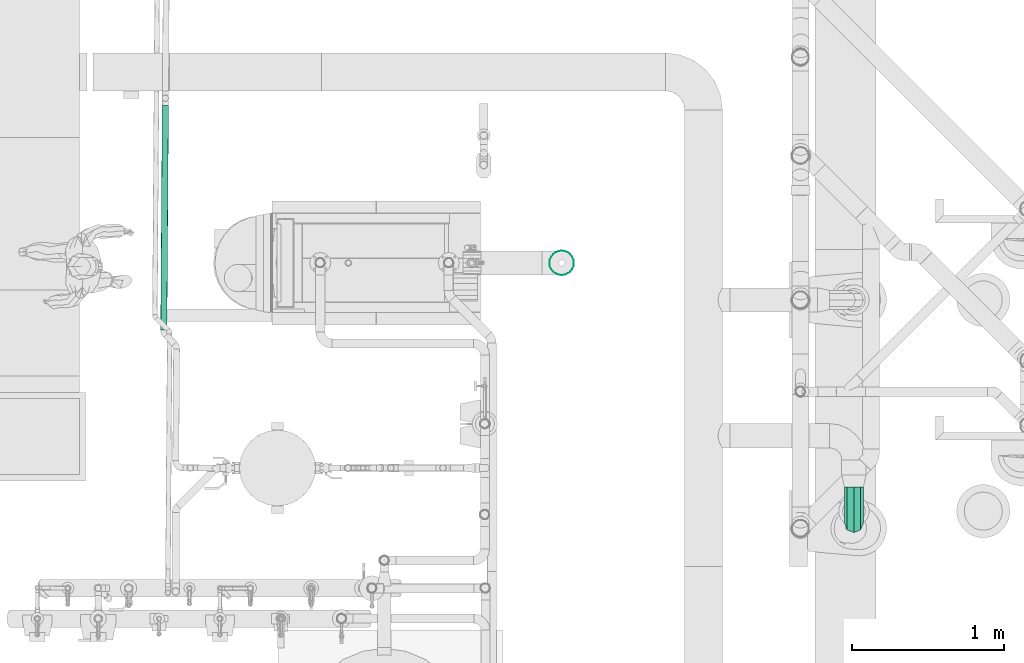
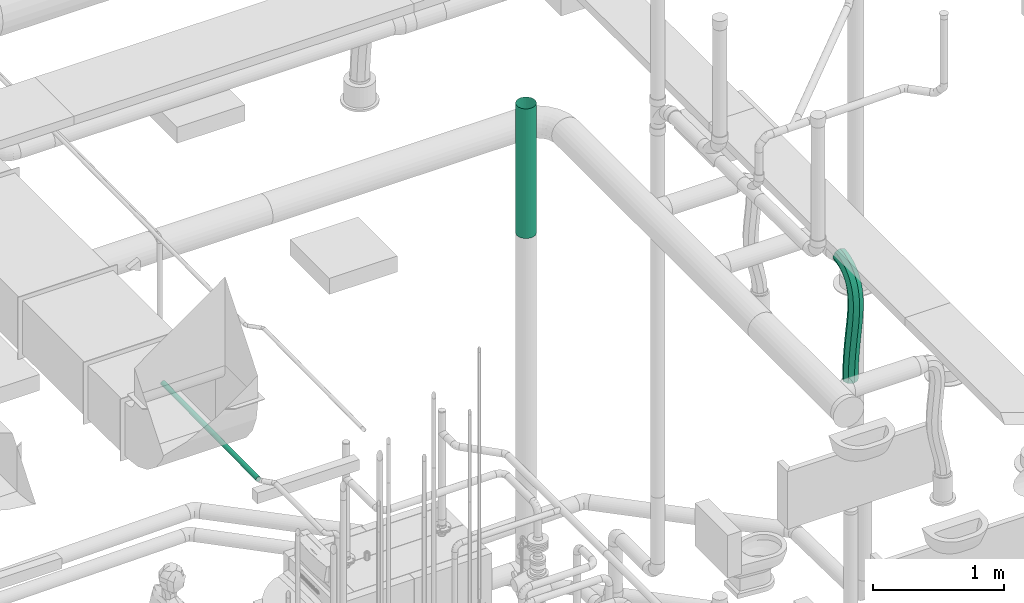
# One storey, part 217 of 374: 3 flow segments.
"""IFC2X3 building model written with IfcOpenShell, lengths in metres."""

from ifc_helpers import new_model, si_unit, direction, origin, place, context, subcontext, project, spatial, open_shell, surface_model, source, transform, mapped, element, save


model = new_model("IFC2X3")

# Units and contexts
model_context = context("Model", 3, precision=1e-05, world=origin(), true_north=direction((-0.4480736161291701, 0.8939966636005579)))
body_context = subcontext(model_context, "Body", "Model", "MODEL_VIEW")
ifc_project = project(units=[si_unit("LENGTHUNIT", "METRE"), si_unit("AREAUNIT", "SQUARE_METRE"), si_unit("VOLUMEUNIT", "CUBIC_METRE"), si_unit("PLANEANGLEUNIT", "RADIAN"), si_unit("THERMODYNAMICTEMPERATUREUNIT", "KELVIN"), si_unit("MASSUNIT", "GRAM", prefix="KILO"), si_unit("TIMEUNIT", "SECOND")], contexts=[model_context])

# Site, building, storey
site_placement = place(None, origin())
site = spatial("IfcSite", under=ifc_project, at=site_placement, Name="Site 1", CompositionType="ELEMENT")
building_placement = place(site_placement, origin())
building = spatial("IfcBuilding", under=site, at=building_placement, Name="Undefined", CompositionType="ELEMENT")
storey_placement = place(building_placement, origin())
storey = spatial("IfcBuildingStorey", under=building, at=storey_placement, Name="Rez de chauss\x8ee", CompositionType="ELEMENT", Elevation=0.0)

# Flow segments
shared_shape_1 = source(origin(), body_context, "Body", "SurfaceModel", [
    surface_model("IfcFaceBasedSurfaceModel", [(0.09296551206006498, 0.0, -1.776356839e-15), (0.06868137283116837, 0.04121296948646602, -3.552713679e-15), (0.0, 0.0, 0.0), (0.024921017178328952, -0.04083100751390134, 4.20823761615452e-07), (-0.06705793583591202, -0.04163735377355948, 0.0028957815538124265), (-0.04155639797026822, -0.08210832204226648, 0.0028719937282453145), (-0.1337249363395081, -0.08427158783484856, 0.008341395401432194), (-0.10773863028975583, -0.12443296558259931, 0.00827888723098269), (-0.20118001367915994, -0.12844506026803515, 0.015994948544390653), (-0.17482193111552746, -0.1683633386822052, 0.015891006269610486), (-0.2705745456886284, -0.17468142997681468, 0.025510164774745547), (-0.24396347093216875, -0.21443139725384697, 0.02537205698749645), (-0.3431505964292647, -0.22356279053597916, 0.0365490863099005), (-0.316448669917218, -0.2632517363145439, 0.036397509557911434), (-0.4217490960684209, -0.27647287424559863, 0.04844706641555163), (-0.3953363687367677, -0.3163549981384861, 0.04833615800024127), (-0.5036277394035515, -0.32986606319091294, 0.057269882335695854), (-0.47814370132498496, -0.37034805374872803, 0.05724717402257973), (-0.5855077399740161, -0.3795456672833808, 0.058401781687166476), (-0.561215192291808, -0.42075368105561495, 0.05840196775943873), (-0.62844431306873, -0.4033745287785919, 0.05439383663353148), (-0.6059795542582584, -0.4456065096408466, 0.05424325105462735), (-0.6692134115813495, -0.42408712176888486, 0.046626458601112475), (-0.6481122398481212, -0.4670150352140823, 0.04622263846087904), (-0.6974109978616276, -0.43709650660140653, 0.03852873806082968), (-0.6779420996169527, -0.48078227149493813, 0.03766605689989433), (-0.7246115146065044, -0.4484246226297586, 0.028188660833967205), (-0.7066454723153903, -0.49273471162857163, 0.02675143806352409), (-0.7513768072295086, -0.45820045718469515, 0.015175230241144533), (-0.735053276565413, -0.503108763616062, 0.012935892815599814), (-0.7774906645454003, -0.4661845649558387, -0.0007387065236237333), (-0.7628960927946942, -0.5116197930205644, -0.004035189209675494), (-0.8026772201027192, -0.47213380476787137, -0.019713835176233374), (-0.7898201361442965, -0.5179779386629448, -0.02432241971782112), (-0.825280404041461, -0.47566254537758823, -0.04049102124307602), (-0.8135197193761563, -0.5216918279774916, -0.046078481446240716), (-0.833923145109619, -0.4765030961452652, -0.04948891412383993), (-0.823196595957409, -0.5226452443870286, -0.056127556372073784), (-0.8410612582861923, -0.4769331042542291, -0.05746741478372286), (-0.8307996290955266, -0.5231033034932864, -0.0646256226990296), (-0.8479937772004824, -0.4771177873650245, -0.0656984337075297), (-0.8381723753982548, -0.5232997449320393, -0.073379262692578), (-0.8547117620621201, -0.47705910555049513, -0.07416680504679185), (-0.8453086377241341, -0.5232374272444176, -0.08237485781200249), (-0.8612053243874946, -0.4767582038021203, -0.08285787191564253), (-0.8522008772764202, -0.5229180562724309, -0.0915995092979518), (-0.8683495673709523, -0.47609964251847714, -0.09309794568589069), (-0.8600931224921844, -0.5221784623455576, -0.10293673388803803), (-0.8847226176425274, -0.4731254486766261, -0.11959917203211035), (-0.8771576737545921, -0.5190619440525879, -0.13059181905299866), (-0.8993770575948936, -0.4678062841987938, -0.14882050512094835), (-0.8927420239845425, -0.5134025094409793, -0.16167308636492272), (-0.9105366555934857, -0.46053554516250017, -0.17774048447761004), (-0.9045082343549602, -0.5057588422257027, -0.19211893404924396), (-0.9154757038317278, -0.4554361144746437, -0.19443580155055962), (-0.9099611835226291, -0.5001581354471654, -0.21049068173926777), (-0.918999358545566, -0.4500652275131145, -0.2099346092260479), (-0.9137588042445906, -0.4943683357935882, -0.22719727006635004), (0.052072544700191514, 0.07068647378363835, -0.03381845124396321), (-0.018146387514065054, 0.02855136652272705, -0.03381946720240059), (-0.08660582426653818, -0.013955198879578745, -0.030865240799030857), (-0.15444315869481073, -0.057336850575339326, -0.025326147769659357), (-0.22279578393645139, -0.10209721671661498, -0.01757256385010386), (-0.29280109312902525, -0.14873992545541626, -0.007974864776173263), (-0.3655964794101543, -0.19776860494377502, 0.0030965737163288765), (-0.44349679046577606, -0.2502123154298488, 0.014896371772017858), (-0.5231333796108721, -0.30215729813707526, 0.023506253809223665), (-0.6021368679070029, -0.35008412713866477, 0.024582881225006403), (-0.6406607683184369, -0.3714409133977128, 0.020938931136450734), (-0.6781378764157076, -0.3904733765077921, 0.013782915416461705), (-0.7023948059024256, -0.40165314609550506, 0.006792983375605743), (-0.7259671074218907, -0.4114740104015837, -0.002160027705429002), (-0.748767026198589, -0.4198056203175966, -0.013236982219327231), (-0.7707068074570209, -0.4265176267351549, -0.026598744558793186), (-0.7916986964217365, -0.4314796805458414, -0.04240617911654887), (-0.8116549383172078, -0.43456143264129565, -0.06082015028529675), (-0.817801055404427, -0.4351295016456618, -0.06728026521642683), (-0.8238167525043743, -0.4354917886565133, -0.07400442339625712), (-0.8296864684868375, -0.4356480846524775, -0.08097372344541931), (-0.8353946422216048, -0.4355981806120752, -0.08816926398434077), (-0.8409257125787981, -0.43534186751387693, -0.0955721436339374), (-0.846264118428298, -0.43487893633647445, -0.10316346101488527), (-0.8609677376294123, -0.4322483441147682, -0.12687902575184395), (-0.873377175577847, -0.4277506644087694, -0.15161008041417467), (-0.8830722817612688, -0.4213802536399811, -0.17684628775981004), (-0.8867706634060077, -0.4174910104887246, -0.18949434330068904), (-0.8896329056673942, -0.41313146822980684, -0.20207731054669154), (0.05286825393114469, 0.07115533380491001, -0.08164496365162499), (-0.01888823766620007, 0.028098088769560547, -0.08164699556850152), (-0.08874917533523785, -0.015277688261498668, -0.0786343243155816), (-0.15775684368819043, -0.05940675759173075, -0.07300175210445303), (-0.22700701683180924, -0.10475401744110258, -0.06514813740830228), (-0.29762310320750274, -0.15180306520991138, -0.055467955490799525), (-0.37063782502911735, -0.20097906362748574, -0.04436400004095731), (-0.4478399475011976, -0.2529564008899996, -0.03266238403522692), (-0.5252344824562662, -0.30345317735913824, -0.02426543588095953), (-0.6013614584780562, -0.3496272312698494, -0.023244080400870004), (-0.635472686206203, -0.36851194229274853, -0.026524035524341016), (-0.6696578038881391, -0.38586427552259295, -0.03306868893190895), (-0.6899740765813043, -0.39521442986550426, -0.038950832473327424), (-0.7099181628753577, -0.4035280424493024, -0.046516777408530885), (-0.7287527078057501, -0.4104154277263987, -0.055657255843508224), (-0.7465184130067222, -0.4158553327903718, -0.06646684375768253), (-0.7633156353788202, -0.4198302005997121, -0.07910658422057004), (-0.7806249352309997, -0.42246496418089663, -0.0951573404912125), (-0.7842744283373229, -0.4227605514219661, -0.09907967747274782), (-0.7891677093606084, -0.42305511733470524, -0.10454949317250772), (-0.7939746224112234, -0.42318302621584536, -0.11025707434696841), (-0.798672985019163, -0.4231418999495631, -0.11617978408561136), (-0.8032415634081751, -0.4229301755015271, -0.12229447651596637), (-0.8067741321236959, -0.42266287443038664, -0.12723703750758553), (-0.8198083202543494, -0.4203758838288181, -0.1481669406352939), (-0.8299727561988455, -0.4166996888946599, -0.16840771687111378), (-0.838203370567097, -0.4112296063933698, -0.18996015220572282), (-0.8406610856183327, -0.4085505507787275, -0.19856094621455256), (-0.8428619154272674, -0.40520235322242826, -0.20822807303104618), (0.0706023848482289, 0.04234489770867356, -0.11546341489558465), (-0.001790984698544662, -0.0010943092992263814, -0.11546586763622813), (-0.07223244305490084, -0.044830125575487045, -0.11242898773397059), (-0.14172487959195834, -0.08926878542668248, -0.10675769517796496), (-0.21134682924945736, -0.13485914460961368, -0.09886264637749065), (-0.28221590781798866, -0.18207650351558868, -0.08914829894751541), (-0.35532148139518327, -0.23131352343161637, -0.07803087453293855), (-0.4322344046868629, -0.2830976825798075, -0.0663699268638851), (-0.5087002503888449, -0.3329945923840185, -0.058061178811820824), (-0.5836357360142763, -0.3784426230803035, -0.05706271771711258), (-0.6159191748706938, -0.39630336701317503, -0.060191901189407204), (-0.6487407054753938, -0.4129597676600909, -0.06648332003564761), (-0.6674247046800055, -0.42155207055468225, -0.07190660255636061), (-0.6858659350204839, -0.42924135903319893, -0.07889800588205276), (-0.7030579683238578, -0.4355305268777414, -0.08723636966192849), (-0.7190947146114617, -0.4404435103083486, -0.09698881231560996), (-0.7341544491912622, -0.4440094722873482, -0.10831645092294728), (-0.7503673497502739, -0.44645908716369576, -0.12338833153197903), (-0.7529827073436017, -0.44664180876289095, -0.1262594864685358), (-0.7574110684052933, -0.4469083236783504, -0.13120973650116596), (-0.7617777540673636, -0.4470244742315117, -0.13639469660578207), (-0.7660578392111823, -0.4469869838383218, -0.1417901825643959), (-0.7702277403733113, -0.446793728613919, -0.14737129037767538), (-0.7730123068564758, -0.4466074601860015, -0.15121670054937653), (-0.7853549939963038, -0.44446279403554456, -0.17099274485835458), (-0.7945895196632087, -0.44112686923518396, -0.18937358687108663), (-0.8022135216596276, -0.4360297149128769, -0.20940015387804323), (-0.8041573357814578, -0.4338519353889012, -0.21632451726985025), (-0.8060841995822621, -0.43092265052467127, -0.2247838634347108), (0.0948865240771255, 0.0011319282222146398, -0.11546341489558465), (0.023130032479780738, -0.04192531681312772, -0.11546544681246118), (-0.046730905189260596, -0.08530109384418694, -0.11245277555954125), (-0.11573857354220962, -0.12943016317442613, -0.10682020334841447), (-0.18498874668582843, -0.17477742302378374, -0.09896658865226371), (-0.25560483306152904, -0.22182647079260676, -0.08928640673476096), (-0.32861955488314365, -0.271002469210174, -0.07818245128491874), (-0.4058216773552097, -0.32297980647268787, -0.06648083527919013), (-0.48321621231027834, -0.3734765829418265, -0.05808388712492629), (-0.5593431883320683, -0.4196506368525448, -0.057062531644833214), (-0.5934544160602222, -0.4385353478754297, -0.06034248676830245), (-0.6276395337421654, -0.4558876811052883, -0.06688714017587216), (-0.6479558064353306, -0.46523783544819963, -0.07276928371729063), (-0.6678998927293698, -0.4735514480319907, -0.08033522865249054), (-0.6867344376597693, -0.4804388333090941, -0.0894757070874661), (-0.7045001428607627, -0.48587873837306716, -0.10028529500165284), (-0.7212973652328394, -0.4898536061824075, -0.11292503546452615), (-0.7386066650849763, -0.4924883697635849, -0.12897579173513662), (-0.7422561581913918, -0.4927839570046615, -0.13289812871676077), (-0.7471494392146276, -0.4930785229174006, -0.1383679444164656), (-0.7519563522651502, -0.4932064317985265, -0.14407552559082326), (-0.7566547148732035, -0.49316530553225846, -0.14999823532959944), (-0.761223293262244, -0.4929535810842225, -0.1561129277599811), (-0.764755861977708, -0.492686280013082, -0.1610554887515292), (-0.7777900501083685, -0.49039928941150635, -0.18198539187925), (-0.7879544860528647, -0.4867230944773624, -0.202226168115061), (-0.7961851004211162, -0.4812530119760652, -0.2237786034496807), (-0.7986428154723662, -0.47857395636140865, -0.23237939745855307), (-0.8008436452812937, -0.47522575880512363, -0.24204652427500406), (0.11149535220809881, -0.02834157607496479, -0.08164496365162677), (0.04127641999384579, -0.07047668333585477, -0.0816459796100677), (-0.027183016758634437, -0.11298324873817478, -0.07869175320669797), (-0.09502035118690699, -0.15636490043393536, -0.07315266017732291), (-0.16337297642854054, -0.2011252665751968, -0.06539907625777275), (-0.23337828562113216, -0.2477679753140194, -0.05580137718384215), (-0.3061736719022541, -0.29679665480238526, -0.044729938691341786), (-0.38407398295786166, -0.3492403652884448, -0.03293014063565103), (-0.46371057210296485, -0.4011853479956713, -0.02432025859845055), (-0.5427140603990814, -0.4491121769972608, -0.023243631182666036), (-0.5812379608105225, -0.4704689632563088, -0.026887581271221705), (-0.6187150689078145, -0.48950142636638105, -0.03404359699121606), (-0.6429719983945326, -0.5006811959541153, -0.04103352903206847), (-0.6665442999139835, -0.5105020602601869, -0.049986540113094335), (-0.6893442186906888, -0.5188336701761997, -0.06106349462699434), (-0.711283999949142, -0.5255456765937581, -0.07442525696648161), (-0.7322758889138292, -0.5305077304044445, -0.09023269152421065), (-0.7522321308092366, -0.5335894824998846, -0.10864666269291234), (-0.7583782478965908, -0.5341575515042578, -0.11510677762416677), (-0.764393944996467, -0.5345198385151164, -0.12183093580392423), (-0.7702636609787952, -0.5346761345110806, -0.12880023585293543), (-0.7759718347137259, -0.5346262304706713, -0.13599577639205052), (-0.7815029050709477, -0.534369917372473, -0.14339865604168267), (-0.7868413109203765, -0.5339069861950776, -0.15098997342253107), (-0.8015449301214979, -0.5312763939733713, -0.1747055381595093), (-0.8139543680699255, -0.5267787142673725, -0.19943659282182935), (-0.8236494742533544, -0.5204083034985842, -0.22467280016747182), (-0.8273478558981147, -0.5165190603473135, -0.23732085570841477), (-0.8302100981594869, -0.51215951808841, -0.2499038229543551), (0.11069964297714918, -0.028810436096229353, -0.03381845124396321), (0.04201827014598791, -0.07002340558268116, -0.03381845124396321), (-0.025039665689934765, -0.11166075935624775, -0.03092266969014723), (-0.0917066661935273, -0.15429499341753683, -0.02547705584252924), (-0.15916174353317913, -0.1984684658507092, -0.01782350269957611), (-0.22855627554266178, -0.24470483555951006, -0.00830828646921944), (-0.301132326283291, -0.29358619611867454, 0.0027306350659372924), (-0.379730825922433, -0.346496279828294, 0.014628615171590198), (-0.46160946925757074, -0.3998894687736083, 0.02345143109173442), (-0.5434894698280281, -0.44956907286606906, 0.024583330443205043), (-0.5864260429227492, -0.4733979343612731, 0.020575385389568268), (-0.6271951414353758, -0.49411052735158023, 0.012808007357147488), (-0.655392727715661, -0.507119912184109, 0.004710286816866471), (-0.6825932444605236, -0.518448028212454, -0.005629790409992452), (-0.7093585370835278, -0.5282238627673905, -0.018643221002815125), (-0.7354723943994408, -0.536207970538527, -0.034557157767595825), (-0.7606589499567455, -0.5421572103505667, -0.053532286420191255), (-0.7832621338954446, -0.5456859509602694, -0.0743094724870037), (-0.791904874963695, -0.5465265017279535, -0.08330736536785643), (-0.7990429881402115, -0.5469565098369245, -0.09128586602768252), (-0.8059755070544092, -0.5471411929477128, -0.09951688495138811), (-0.8126934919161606, -0.5470825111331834, -0.10798525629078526), (-0.8191870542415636, -0.5467816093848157, -0.11667632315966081), (-0.8263312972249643, -0.5461230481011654, -0.12691639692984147), (-0.8427043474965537, -0.5431488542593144, -0.15341762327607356), (-0.8573587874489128, -0.537829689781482, -0.18263895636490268), (-0.8685183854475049, -0.5305589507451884, -0.21155893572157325), (-0.8734574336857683, -0.5254595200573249, -0.22825425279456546), (-0.8769810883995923, -0.5200886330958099, -0.2437530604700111)], [open_shell([[[0, 1, 2]], [[2, 3, 0]], [[3, 2, 4]], [[4, 5, 3]], [[5, 4, 6]], [[6, 7, 5]], [[7, 6, 8]], [[8, 9, 7]], [[9, 8, 10]], [[10, 11, 9]], [[11, 10, 12]], [[12, 13, 11]], [[13, 12, 14]], [[14, 15, 13]], [[15, 14, 16]], [[16, 17, 15]], [[17, 16, 18]], [[18, 19, 17]], [[19, 18, 20]], [[20, 21, 19]], [[21, 20, 22]], [[22, 23, 21]], [[23, 22, 24]], [[24, 25, 23]], [[25, 24, 26]], [[26, 27, 25]], [[27, 26, 28]], [[28, 29, 27]], [[29, 28, 30]], [[30, 31, 29]], [[31, 30, 32]], [[32, 33, 31]], [[33, 32, 34]], [[34, 35, 33]], [[35, 34, 36]], [[36, 37, 35]], [[37, 36, 38]], [[38, 39, 37]], [[39, 38, 40]], [[40, 41, 39]], [[41, 40, 42]], [[42, 43, 41]], [[43, 42, 44]], [[44, 45, 43]], [[45, 44, 46]], [[46, 47, 45]], [[47, 46, 48]], [[48, 49, 47]], [[49, 48, 50]], [[50, 51, 49]], [[51, 50, 52]], [[52, 53, 51]], [[53, 52, 54]], [[54, 55, 53]], [[55, 54, 56]], [[56, 57, 55]], [[1, 58, 59]], [[59, 2, 1]], [[2, 59, 60]], [[60, 4, 2]], [[4, 60, 61]], [[61, 6, 4]], [[6, 61, 62]], [[62, 8, 6]], [[8, 62, 63]], [[63, 10, 8]], [[10, 63, 64]], [[64, 12, 10]], [[12, 64, 65]], [[65, 14, 12]], [[14, 65, 66]], [[66, 16, 14]], [[16, 66, 67]], [[67, 18, 16]], [[18, 67, 68]], [[68, 20, 18]], [[20, 68, 69]], [[69, 22, 20]], [[22, 69, 70]], [[70, 24, 22]], [[24, 70, 71]], [[71, 26, 24]], [[26, 71, 72]], [[72, 28, 26]], [[28, 72, 73]], [[73, 30, 28]], [[30, 73, 74]], [[74, 32, 30]], [[32, 74, 75]], [[75, 34, 32]], [[34, 75, 76]], [[76, 36, 34]], [[36, 76, 77]], [[77, 38, 36]], [[38, 77, 78]], [[78, 40, 38]], [[40, 78, 79]], [[79, 42, 40]], [[42, 79, 80]], [[80, 44, 42]], [[44, 80, 81]], [[81, 46, 44]], [[46, 81, 82]], [[82, 48, 46]], [[48, 82, 83]], [[83, 50, 48]], [[50, 83, 84]], [[84, 52, 50]], [[52, 84, 85]], [[85, 54, 52]], [[54, 85, 86]], [[86, 56, 54]], [[58, 87, 88]], [[88, 59, 58]], [[59, 88, 89]], [[89, 60, 59]], [[60, 89, 90]], [[90, 61, 60]], [[61, 90, 91]], [[91, 62, 61]], [[62, 91, 92]], [[92, 63, 62]], [[63, 92, 93]], [[93, 64, 63]], [[64, 93, 94]], [[94, 65, 64]], [[65, 94, 95]], [[95, 66, 65]], [[66, 95, 96]], [[96, 67, 66]], [[67, 96, 97]], [[97, 68, 67]], [[68, 97, 98]], [[98, 69, 68]], [[69, 98, 99]], [[99, 70, 69]], [[70, 99, 100]], [[100, 71, 70]], [[71, 100, 101]], [[101, 72, 71]], [[72, 101, 102]], [[102, 73, 72]], [[73, 102, 103]], [[103, 74, 73]], [[74, 103, 104]], [[104, 75, 74]], [[75, 104, 105]], [[105, 76, 75]], [[76, 105, 106]], [[106, 77, 76]], [[77, 106, 107]], [[107, 78, 77]], [[78, 107, 108]], [[108, 79, 78]], [[79, 108, 109]], [[109, 80, 79]], [[80, 109, 110]], [[110, 81, 80]], [[81, 110, 111]], [[111, 82, 81]], [[82, 111, 112]], [[112, 83, 82]], [[83, 112, 113]], [[113, 84, 83]], [[84, 113, 114]], [[114, 85, 84]], [[85, 114, 115]], [[115, 86, 85]], [[87, 116, 117]], [[117, 88, 87]], [[88, 117, 118]], [[118, 89, 88]], [[89, 118, 119]], [[119, 90, 89]], [[90, 119, 120]], [[120, 91, 90]], [[91, 120, 121]], [[121, 92, 91]], [[92, 121, 122]], [[122, 93, 92]], [[93, 122, 123]], [[123, 94, 93]], [[94, 123, 124]], [[124, 95, 94]], [[95, 124, 125]], [[125, 96, 95]], [[96, 125, 126]], [[126, 97, 96]], [[97, 126, 127]], [[127, 98, 97]], [[98, 127, 128]], [[128, 99, 98]], [[99, 128, 129]], [[129, 100, 99]], [[100, 129, 130]], [[130, 101, 100]], [[101, 130, 131]], [[131, 102, 101]], [[102, 131, 132]], [[132, 103, 102]], [[103, 132, 133]], [[133, 104, 103]], [[104, 133, 134]], [[134, 105, 104]], [[105, 134, 135]], [[135, 106, 105]], [[106, 135, 136]], [[136, 107, 106]], [[107, 136, 137]], [[137, 108, 107]], [[108, 137, 138]], [[138, 109, 108]], [[109, 138, 139]], [[139, 110, 109]], [[110, 139, 140]], [[140, 111, 110]], [[111, 140, 141]], [[141, 112, 111]], [[112, 141, 142]], [[142, 113, 112]], [[113, 142, 143]], [[143, 114, 113]], [[114, 143, 144]], [[144, 115, 114]], [[116, 145, 146]], [[146, 117, 116]], [[117, 146, 147]], [[147, 118, 117]], [[118, 147, 148]], [[148, 119, 118]], [[119, 148, 149]], [[149, 120, 119]], [[120, 149, 150]], [[150, 121, 120]], [[121, 150, 151]], [[151, 122, 121]], [[122, 151, 152]], [[152, 123, 122]], [[123, 152, 153]], [[153, 124, 123]], [[124, 153, 154]], [[154, 125, 124]], [[125, 154, 155]], [[155, 126, 125]], [[126, 155, 156]], [[156, 127, 126]], [[127, 156, 157]], [[157, 128, 127]], [[128, 157, 158]], [[158, 129, 128]], [[129, 158, 159]], [[159, 130, 129]], [[130, 159, 160]], [[160, 131, 130]], [[131, 160, 161]], [[161, 132, 131]], [[132, 161, 162]], [[162, 133, 132]], [[133, 162, 163]], [[163, 134, 133]], [[134, 163, 164]], [[164, 135, 134]], [[135, 164, 165]], [[165, 136, 135]], [[136, 165, 166]], [[166, 137, 136]], [[137, 166, 167]], [[167, 138, 137]], [[138, 167, 168]], [[168, 139, 138]], [[139, 168, 169]], [[169, 140, 139]], [[140, 169, 170]], [[170, 141, 140]], [[141, 170, 171]], [[171, 142, 141]], [[142, 171, 172]], [[172, 143, 142]], [[143, 172, 173]], [[173, 144, 143]], [[145, 174, 175]], [[175, 146, 145]], [[146, 175, 176]], [[176, 147, 146]], [[147, 176, 177]], [[177, 148, 147]], [[148, 177, 178]], [[178, 149, 148]], [[149, 178, 179]], [[179, 150, 149]], [[150, 179, 180]], [[180, 151, 150]], [[151, 180, 181]], [[181, 152, 151]], [[152, 181, 182]], [[182, 153, 152]], [[153, 182, 183]], [[183, 154, 153]], [[154, 183, 184]], [[184, 155, 154]], [[155, 184, 185]], [[185, 156, 155]], [[156, 185, 186]], [[186, 157, 156]], [[157, 186, 187]], [[187, 158, 157]], [[158, 187, 188]], [[188, 159, 158]], [[159, 188, 189]], [[189, 160, 159]], [[160, 189, 190]], [[190, 161, 160]], [[161, 190, 191]], [[191, 162, 161]], [[162, 191, 192]], [[192, 163, 162]], [[163, 192, 193]], [[193, 164, 163]], [[164, 193, 194]], [[194, 165, 164]], [[165, 194, 195]], [[195, 166, 165]], [[166, 195, 196]], [[196, 167, 166]], [[167, 196, 197]], [[197, 168, 167]], [[168, 197, 198]], [[198, 169, 168]], [[169, 198, 199]], [[199, 170, 169]], [[170, 199, 200]], [[200, 171, 170]], [[171, 200, 201]], [[201, 172, 171]], [[172, 201, 202]], [[202, 173, 172]], [[174, 203, 204]], [[204, 175, 174]], [[175, 204, 205]], [[205, 176, 175]], [[176, 205, 206]], [[206, 177, 176]], [[177, 206, 207]], [[207, 178, 177]], [[178, 207, 208]], [[208, 179, 178]], [[179, 208, 209]], [[209, 180, 179]], [[180, 209, 210]], [[210, 181, 180]], [[181, 210, 211]], [[211, 182, 181]], [[182, 211, 212]], [[212, 183, 182]], [[183, 212, 213]], [[213, 184, 183]], [[184, 213, 214]], [[214, 185, 184]], [[185, 214, 215]], [[215, 186, 185]], [[186, 215, 216]], [[216, 187, 186]], [[187, 216, 217]], [[217, 188, 187]], [[188, 217, 218]], [[218, 189, 188]], [[189, 218, 219]], [[219, 190, 189]], [[190, 219, 220]], [[220, 191, 190]], [[191, 220, 221]], [[221, 192, 191]], [[192, 221, 222]], [[222, 193, 192]], [[193, 222, 223]], [[223, 194, 193]], [[194, 223, 224]], [[224, 195, 194]], [[195, 224, 225]], [[225, 196, 195]], [[196, 225, 226]], [[226, 197, 196]], [[197, 226, 227]], [[227, 198, 197]], [[198, 227, 228]], [[228, 199, 198]], [[199, 228, 229]], [[229, 200, 199]], [[200, 229, 230]], [[230, 201, 200]], [[201, 230, 231]], [[231, 202, 201]], [[203, 0, 3]], [[3, 204, 203]], [[204, 3, 5]], [[5, 205, 204]], [[205, 5, 7]], [[7, 206, 205]], [[206, 7, 9]], [[9, 207, 206]], [[207, 9, 11]], [[11, 208, 207]], [[208, 11, 13]], [[13, 209, 208]], [[209, 13, 15]], [[15, 210, 209]], [[210, 15, 17]], [[17, 211, 210]], [[211, 17, 19]], [[19, 212, 211]], [[212, 19, 21]], [[21, 213, 212]], [[213, 21, 23]], [[23, 214, 213]], [[214, 23, 25]], [[25, 215, 214]], [[215, 25, 27]], [[27, 216, 215]], [[216, 27, 29]], [[29, 217, 216]], [[217, 29, 31]], [[31, 218, 217]], [[218, 31, 33]], [[33, 219, 218]], [[219, 33, 35]], [[35, 220, 219]], [[220, 35, 37]], [[37, 221, 220]], [[221, 37, 39]], [[39, 222, 221]], [[222, 39, 41]], [[41, 223, 222]], [[223, 41, 43]], [[43, 224, 223]], [[224, 43, 45]], [[45, 225, 224]], [[225, 45, 47]], [[47, 226, 225]], [[226, 47, 49]], [[49, 227, 226]], [[227, 49, 51]], [[51, 228, 227]], [[228, 51, 53]], [[53, 229, 228]], [[229, 53, 55]], [[55, 230, 229]], [[230, 55, 57]], [[57, 231, 230]]])]),
])
flow_segment_1_placement = place(storey_placement, origin())
element("IfcFlowSegment", 1, at=flow_segment_1_placement, inside=storey, Name="Tube flexible", ObjectType="Tube flexible", context=body_context, shape_type="MappedRepresentation", body=[
    mapped(shared_shape_1, transform((57.46919417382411, 11.378865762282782, 2.8200801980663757), x_axis=(-0.47538246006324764, -0.1789050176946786, -0.8613968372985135), y_axis=(0.7922243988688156, 0.33875918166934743, -0.5075654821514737), z_axis=(0.38261209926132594, -0.9237073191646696, -0.019307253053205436))),
])
shared_shape_2 = source(origin(), body_context, "Body", "SurfaceModel", [
    surface_model("IfcFaceBasedSurfaceModel", [(0.0, 0.020884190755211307, 0.0), (0.0, 0.0, 0.0), (1.2094099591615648, 7.105427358e-15, 1.776356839e-15), (1.2094099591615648, 0.020884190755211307, 1.776356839e-15), (0.0, -0.020172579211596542, -0.005405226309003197), (1.2094099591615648, -0.020172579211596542, -0.005405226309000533), (0.0, -0.03825881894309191, -0.015847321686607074), (1.2094099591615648, -0.038258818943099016, -0.015847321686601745), (0.0, -0.05302617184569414, -0.0306146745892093), (1.2094099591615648, -0.05302617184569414, -0.030614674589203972), (0.0, -0.06346826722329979, -0.04870091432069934), (1.2094099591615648, -0.06346826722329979, -0.04870091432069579), (0.0, -0.06887349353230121, -0.06887349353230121), (1.2094099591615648, -0.0688734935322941, -0.06887349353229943), (0.0, -0.06887349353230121, -0.08975768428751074), (1.2094099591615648, -0.06887349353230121, -0.08975768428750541), (0.0, -0.06346826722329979, -0.10993026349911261), (1.2094099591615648, -0.06346826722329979, -0.10993026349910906), (0.0, -0.05302617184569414, -0.12801650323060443), (1.2094099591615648, -0.05302617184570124, -0.12801650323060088), (0.0, -0.038258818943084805, -0.14278385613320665), (1.2094099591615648, -0.038258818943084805, -0.1427838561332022), (0.0, -0.020172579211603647, -0.15322595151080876), (1.2094099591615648, -0.020172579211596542, -0.15322595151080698), (0.0, 7.105427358e-15, -0.15863117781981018), (1.2094099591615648, 0.0, -0.15863117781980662), (0.0, 0.020884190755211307, -0.15863117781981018), (1.2094099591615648, 0.020884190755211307, -0.1586311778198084), (0.0, 0.04105676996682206, -0.15322595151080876), (1.2094099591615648, 0.041056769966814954, -0.1532259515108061), (0.0, 0.05914300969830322, -0.1427838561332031), (1.2094099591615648, 0.05914300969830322, -0.1427838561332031), (0.0, 0.07391036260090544, -0.12801650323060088), (1.2094099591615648, 0.07391036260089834, -0.1280165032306), (0.0, 0.0843524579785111, -0.10993026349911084), (1.2094099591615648, 0.0843524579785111, -0.10993026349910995), (0.0, 0.08975768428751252, -0.08975768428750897), (1.2094099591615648, 0.08975768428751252, -0.08975768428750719), (0.0, 0.08975768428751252, -0.06887349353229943), (1.2094099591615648, 0.08975768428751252, -0.06887349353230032), (0.0, 0.0843524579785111, -0.048700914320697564), (1.2094099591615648, 0.08435245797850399, -0.0487009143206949), (0.0, 0.07391036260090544, -0.030614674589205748), (1.2094099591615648, 0.07391036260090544, -0.030614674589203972), (0.0, 0.05914300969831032, -0.015847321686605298), (1.2094099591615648, 0.05914300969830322, -0.01584732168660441), (0.0, 0.04105676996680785, -0.005405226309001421), (1.2094099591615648, 0.041056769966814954, -0.005405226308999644)], [open_shell([[[0, 1, 2, 3]], [[1, 4, 5, 2]], [[4, 6, 7, 5]], [[6, 8, 9, 7]], [[8, 10, 11, 9]], [[10, 12, 13, 11]], [[12, 14, 15, 13]], [[14, 16, 17, 15]], [[16, 18, 19, 17]], [[18, 20, 21, 19]], [[20, 22, 23, 21]], [[22, 24, 25, 23]], [[24, 26, 27, 25]], [[26, 28, 29, 27]], [[28, 30, 31, 29]], [[30, 32, 33, 31]], [[32, 34, 35, 33]], [[34, 36, 37, 35]], [[36, 38, 39, 37]], [[38, 40, 41, 39]], [[40, 42, 43, 41]], [[42, 44, 45, 43]], [[44, 46, 47, 45]], [[46, 0, 3, 47]]])]),
])
flow_segment_2_placement = place(storey_placement, origin())
element("IfcFlowSegment", 2, at=flow_segment_2_placement, inside=storey, Name="Tube", ObjectType="Tube", context=body_context, shape_type="MappedRepresentation", body=[
    mapped(shared_shape_2, transform((55.52532337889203, 12.978661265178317, 3.790590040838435), x_axis=(0.0, 0.0, 1.0), y_axis=(-0.9914448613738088, -0.13052619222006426, 0.0), z_axis=(0.13052619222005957, -0.9914448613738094, 0.0))),
])
shared_shape_3 = source(origin(), body_context, "Body", "SurfaceModel", [
    surface_model("IfcFaceBasedSurfaceModel", [(0.0, 0.005534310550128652, 0.0), (0.0, 0.0, 0.0), (1.4762707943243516, 0.0, 0.0), (1.4762707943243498, 0.005534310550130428, -7.105427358e-15), (0.0, -0.00534573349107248, -0.0014323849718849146), (1.4762707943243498, -0.005345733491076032, -0.0014323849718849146), (0.0, -0.010138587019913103, -0.004199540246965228), (1.4762707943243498, -0.010138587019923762, -0.004199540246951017), (0.0, -0.01405193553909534, -0.008112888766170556), (1.4762707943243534, -0.014051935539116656, -0.008112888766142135), (0.0, -0.016819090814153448, -0.012905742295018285), (1.4762707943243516, -0.016819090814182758, -0.012905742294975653), (0.0, -0.018251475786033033, -0.018251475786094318), (1.4762707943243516, -0.018251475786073, -0.018251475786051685), (0.0, -0.0182514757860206, -0.02378578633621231), (1.4762707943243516, -0.018251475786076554, -0.023785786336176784), (0.0, -0.01681909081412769, -0.029131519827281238), (1.4762707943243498, -0.016819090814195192, -0.029131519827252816), (0.0, -0.014051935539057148, -0.03392437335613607), (1.4762707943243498, -0.01405193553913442, -0.03392437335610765), (0.0, -0.010138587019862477, -0.037837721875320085), (1.4762707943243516, -0.010138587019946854, -0.037837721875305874), (0.0, -0.005345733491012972, -0.040604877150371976), (1.4762707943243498, -0.005345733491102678, -0.040604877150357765), (0.0, 6.4837024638e-14, -0.042037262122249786), (1.4762707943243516, -3.019806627e-14, -0.042037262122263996), (0.0, 0.005534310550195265, -0.04203726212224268), (1.4762707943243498, 0.00553431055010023, -0.04203726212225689), (0.0, 0.010880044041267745, -0.04060487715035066), (1.4762707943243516, 0.010880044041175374, -0.04060487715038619), (0.0, 0.01567289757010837, -0.03783772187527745), (1.4762707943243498, 0.015672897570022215, -0.037837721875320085), (0.0, 0.019586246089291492, -0.033924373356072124), (1.4762707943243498, 0.01958624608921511, -0.03392437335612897), (0.0, 0.0223534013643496, -0.029131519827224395), (1.4762707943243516, 0.022353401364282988, -0.029131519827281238), (0.0, 0.02378578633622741, -0.023785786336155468), (1.4762707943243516, 0.02378578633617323, -0.023785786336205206), (0.0, 0.023785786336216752, -0.01825147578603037), (1.4762707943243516, 0.023785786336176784, -0.018251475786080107), (0.0, 0.022353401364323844, -0.012905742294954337), (1.4762707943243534, 0.022353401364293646, -0.012905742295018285), (0.0, 0.019586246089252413, -0.008112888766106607), (1.4762707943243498, 0.019586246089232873, -0.00811288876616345), (0.0, 0.015672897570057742, -0.004199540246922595), (1.4762707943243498, 0.015672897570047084, -0.004199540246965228), (0.0, 0.010880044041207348, -0.0014323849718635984), (1.4762707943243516, 0.010880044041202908, -0.0014323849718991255)], [open_shell([[[0, 1, 2, 3]], [[1, 4, 5, 2]], [[4, 6, 7, 5]], [[6, 8, 9, 7]], [[8, 10, 11, 9]], [[10, 12, 13, 11]], [[12, 14, 15, 13]], [[14, 16, 17, 15]], [[16, 18, 19, 17]], [[18, 20, 21, 19]], [[20, 22, 23, 21]], [[22, 24, 25, 23]], [[24, 26, 27, 25]], [[26, 28, 29, 27]], [[28, 30, 31, 29]], [[30, 32, 33, 31]], [[32, 34, 35, 33]], [[34, 36, 37, 35]], [[36, 38, 39, 37]], [[38, 40, 41, 39]], [[40, 42, 43, 41]], [[42, 44, 45, 43]], [[44, 46, 47, 45]], [[46, 0, 3, 47]]])]),
])
flow_segment_3_placement = place(storey_placement, origin())
element("IfcFlowSegment", 3, at=flow_segment_3_placement, inside=storey, Name="Tube acier d'après DIN 2448", ObjectType="Tube acier d'après DIN 2448", context=body_context, shape_type="MappedRepresentation", body=[
    mapped(shared_shape_3, transform((52.87867816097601, 14.091144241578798, 2.6680409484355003), x_axis=(-0.00698126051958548, -0.9999756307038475, 0.0), y_axis=(-0.13052301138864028, 0.000911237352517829, 0.9914448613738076), z_axis=(-0.991420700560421, 0.0069215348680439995, -0.13052619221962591))),
])

save(model, "model.ifc")
